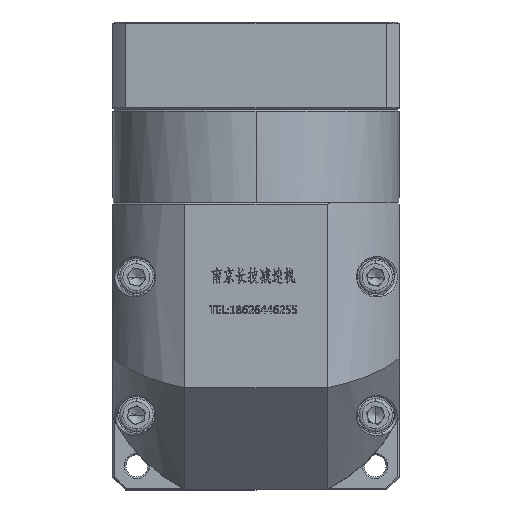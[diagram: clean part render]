
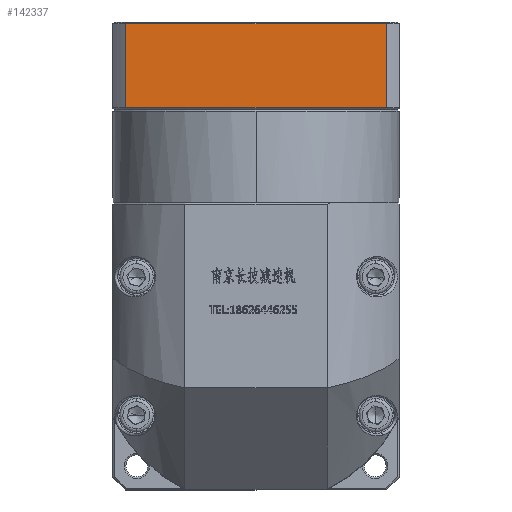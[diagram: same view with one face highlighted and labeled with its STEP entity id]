
A CAD part, top view. The second image highlights one B-rep face of the part: STEP entity #142337.
In plain terms, the highlighted planar face has unit normal (0, 0, 1).
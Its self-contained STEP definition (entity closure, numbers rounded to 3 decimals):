
#4904 = LINE ( 'NONE', #53737, #110036 ) ;
#5494 = DIRECTION ( 'NONE',  ( 0., -1., 0. ) ) ;
#7657 = CARTESIAN_POINT ( 'NONE',  ( -44.311, 128.665, 120.402 ) ) ;
#8920 = EDGE_LOOP ( 'NONE', ( #70808, #102809, #81284, #128288 ) ) ;
#19563 = CARTESIAN_POINT ( 'NONE',  ( -121.771, 128.665, 120.402 ) ) ;
#19687 = EDGE_CURVE ( 'NONE', #115867, #98087, #122538, .T. ) ;
#21658 = EDGE_CURVE ( 'NONE', #115867, #127395, #4904, .T. ) ;
#28773 = CARTESIAN_POINT ( 'NONE',  ( -40.541, 128.665, 120.402 ) ) ;
#53737 = CARTESIAN_POINT ( 'NONE',  ( -121.771, 129.165, 120.402 ) ) ;
#53905 = AXIS2_PLACEMENT_3D ( 'NONE', #135910, #53922, #149730 ) ;
#53922 = DIRECTION ( 'NONE',  ( 0., 0., -1. ) ) ;
#60140 = CARTESIAN_POINT ( 'NONE',  ( -44.311, -61.096, 120.402 ) ) ;
#66408 = DIRECTION ( 'NONE',  ( 1., 0., 0. ) ) ;
#70808 = ORIENTED_EDGE ( 'NONE', *, *, #19687, .T. ) ;
#72457 = LINE ( 'NONE', #60140, #177484 ) ;
#81284 = ORIENTED_EDGE ( 'NONE', *, *, #129811, .F. ) ;
#85867 = LINE ( 'NONE', #28773, #154479 ) ;
#98087 = VERTEX_POINT ( 'NONE', #123444 ) ;
#102809 = ORIENTED_EDGE ( 'NONE', *, *, #140891, .F. ) ;
#110036 = VECTOR ( 'NONE', #149557, 1000. ) ;
#115867 = VERTEX_POINT ( 'NONE', #160913 ) ;
#120983 = CARTESIAN_POINT ( 'NONE',  ( -40.541, 103.665, 120.402 ) ) ;
#121060 = PLANE ( 'NONE',  #53905 ) ;
#122538 = LINE ( 'NONE', #120983, #154693 ) ;
#123444 = CARTESIAN_POINT ( 'NONE',  ( -44.311, 103.665, 120.402 ) ) ;
#124137 = DIRECTION ( 'NONE',  ( 1., 0., 0. ) ) ;
#127395 = VERTEX_POINT ( 'NONE', #19563 ) ;
#128288 = ORIENTED_EDGE ( 'NONE', *, *, #21658, .F. ) ;
#129361 = FACE_OUTER_BOUND ( 'NONE', #8920, .T. ) ;
#129811 = EDGE_CURVE ( 'NONE', #127395, #163006, #85867, .T. ) ;
#135910 = CARTESIAN_POINT ( 'NONE',  ( -40.541, 129.165, 120.402 ) ) ;
#140891 = EDGE_CURVE ( 'NONE', #163006, #98087, #72457, .T. ) ;
#142337 = ADVANCED_FACE ( 'NONE', ( #129361 ), #121060, .F. ) ;
#149557 = DIRECTION ( 'NONE',  ( 0., 1., 0. ) ) ;
#149730 = DIRECTION ( 'NONE',  ( -1., 0., 0. ) ) ;
#154479 = VECTOR ( 'NONE', #124137, 1000. ) ;
#154693 = VECTOR ( 'NONE', #66408, 1000. ) ;
#160913 = CARTESIAN_POINT ( 'NONE',  ( -121.771, 103.665, 120.402 ) ) ;
#163006 = VERTEX_POINT ( 'NONE', #7657 ) ;
#177484 = VECTOR ( 'NONE', #5494, 1000. ) ;
